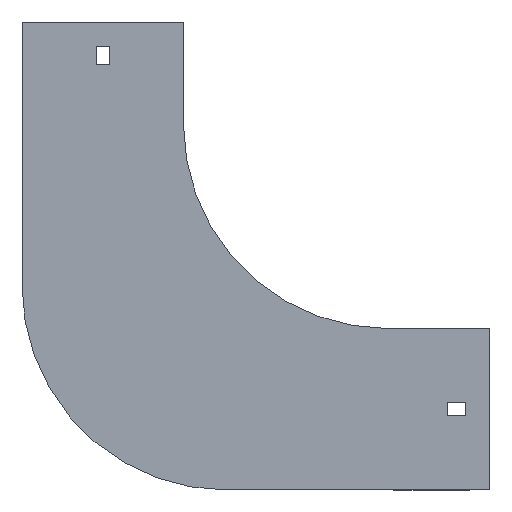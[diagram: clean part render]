
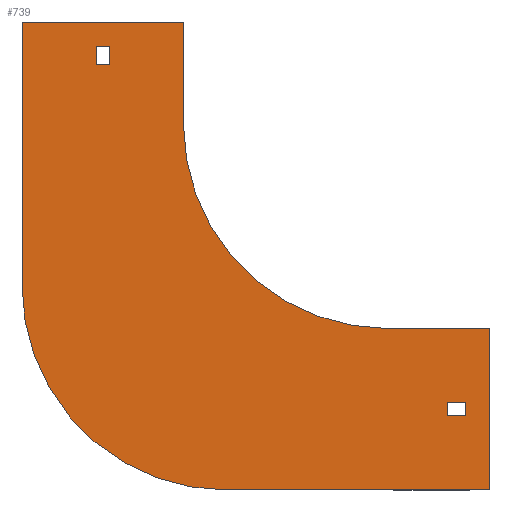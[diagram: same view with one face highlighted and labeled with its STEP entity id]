
A CAD part, front view. The second image highlights one B-rep face of the part: STEP entity #739.
In plain terms, the highlighted planar face has unit normal (0, -1, 0).
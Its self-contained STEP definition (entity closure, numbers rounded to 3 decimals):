
#6 = CARTESIAN_POINT ( 'NONE',  ( -142.75, 0., 29. ) ) ;
#16 = DIRECTION ( 'NONE',  ( 1., 0., 0. ) ) ;
#19 = FACE_BOUND ( 'NONE', #1252, .T. ) ;
#46 = VECTOR ( 'NONE', #1028, 1000. ) ;
#51 = DIRECTION ( 'NONE',  ( 0., 0., -1. ) ) ;
#72 = DIRECTION ( 'NONE',  ( 0., 0., -1. ) ) ;
#89 = VECTOR ( 'NONE', #1152, 1000. ) ;
#97 = VERTEX_POINT ( 'NONE', #871 ) ;
#98 = ORIENTED_EDGE ( 'NONE', *, *, #905, .F. ) ;
#104 = LINE ( 'NONE', #638, #516 ) ;
#107 = LINE ( 'NONE', #633, #1359 ) ;
#114 = VERTEX_POINT ( 'NONE', #967 ) ;
#117 = ORIENTED_EDGE ( 'NONE', *, *, #245, .T. ) ;
#118 = DIRECTION ( 'NONE',  ( 1., 0., 0. ) ) ;
#139 = EDGE_LOOP ( 'NONE', ( #1296, #98, #810, #160 ) ) ;
#156 = VECTOR ( 'NONE', #551, 1000. ) ;
#160 = ORIENTED_EDGE ( 'NONE', *, *, #240, .F. ) ;
#177 = CARTESIAN_POINT ( 'NONE',  ( -142.75, 0., 29. ) ) ;
#179 = AXIS2_PLACEMENT_3D ( 'NONE', #712, #926, #399 ) ;
#180 = VERTEX_POINT ( 'NONE', #1052 ) ;
#182 = EDGE_LOOP ( 'NONE', ( #1253, #1178, #1127, #837, #361, #1090, #976, #302 ) ) ;
#208 = VECTOR ( 'NONE', #814, 1000. ) ;
#214 = DIRECTION ( 'NONE',  ( 0., 0., 1. ) ) ;
#215 = EDGE_CURVE ( 'NONE', #97, #114, #1139, .T. ) ;
#217 = CARTESIAN_POINT ( 'NONE',  ( 38., 0., -142.75 ) ) ;
#226 = CARTESIAN_POINT ( 'NONE',  ( 29., 0., -142.75 ) ) ;
#233 = VECTOR ( 'NONE', #1288, 1000. ) ;
#240 = EDGE_CURVE ( 'NONE', #1267, #1282, #104, .T. ) ;
#245 = EDGE_CURVE ( 'NONE', #1029, #648, #530, .T. ) ;
#252 = EDGE_CURVE ( 'NONE', #1005, #1300, #409, .T. ) ;
#258 = EDGE_CURVE ( 'NONE', #114, #792, #515, .T. ) ;
#269 = VECTOR ( 'NONE', #51, 1000. ) ;
#301 = EDGE_CURVE ( 'NONE', #1176, #1267, #1265, .T. ) ;
#302 = ORIENTED_EDGE ( 'NONE', *, *, #1002, .F. ) ;
#316 = CARTESIAN_POINT ( 'NONE',  ( -179., 0., -79. ) ) ;
#345 = FACE_OUTER_BOUND ( 'NONE', #182, .T. ) ;
#357 = EDGE_CURVE ( 'NONE', #612, #1029, #606, .T. ) ;
#361 = ORIENTED_EDGE ( 'NONE', *, *, #215, .F. ) ;
#380 = LINE ( 'NONE', #785, #269 ) ;
#392 = EDGE_CURVE ( 'NONE', #648, #1069, #1401, .T. ) ;
#399 = DIRECTION ( 'NONE',  ( 0., 0., 1. ) ) ;
#402 = EDGE_CURVE ( 'NONE', #1069, #612, #107, .T. ) ;
#409 = LINE ( 'NONE', #316, #89 ) ;
#425 = AXIS2_PLACEMENT_3D ( 'NONE', #990, #981, #1100 ) ;
#443 = ORIENTED_EDGE ( 'NONE', *, *, #392, .T. ) ;
#446 = PLANE ( 'NONE',  #425 ) ;
#448 = EDGE_CURVE ( 'NONE', #792, #1005, #947, .T. ) ;
#480 = LINE ( 'NONE', #708, #208 ) ;
#503 = VERTEX_POINT ( 'NONE', #677 ) ;
#515 = LINE ( 'NONE', #1165, #987 ) ;
#516 = VECTOR ( 'NONE', #1398, 1000. ) ;
#530 = LINE ( 'NONE', #958, #696 ) ;
#551 = DIRECTION ( 'NONE',  ( 0., 0., 1. ) ) ;
#557 = EDGE_CURVE ( 'NONE', #503, #180, #1387, .T. ) ;
#593 = LINE ( 'NONE', #1394, #233 ) ;
#606 = LINE ( 'NONE', #1023, #1138 ) ;
#608 = EDGE_CURVE ( 'NONE', #1300, #685, #593, .T. ) ;
#612 = VERTEX_POINT ( 'NONE', #906 ) ;
#633 = CARTESIAN_POINT ( 'NONE',  ( -142.75, 0., 38. ) ) ;
#638 = CARTESIAN_POINT ( 'NONE',  ( 29., 0., -136.25 ) ) ;
#648 = VERTEX_POINT ( 'NONE', #177 ) ;
#650 = CARTESIAN_POINT ( 'NONE',  ( 0., 0., 0. ) ) ;
#666 = CARTESIAN_POINT ( 'NONE',  ( 38., 0., -136.25 ) ) ;
#677 = CARTESIAN_POINT ( 'NONE',  ( -100., 0., 0. ) ) ;
#685 = VERTEX_POINT ( 'NONE', #1358 ) ;
#696 = VECTOR ( 'NONE', #738, 1000. ) ;
#700 = EDGE_CURVE ( 'NONE', #1282, #1202, #480, .T. ) ;
#708 = CARTESIAN_POINT ( 'NONE',  ( 29., 0., -142.75 ) ) ;
#712 = CARTESIAN_POINT ( 'NONE',  ( -79., 0., -79. ) ) ;
#738 = DIRECTION ( 'NONE',  ( -1., 0., 0. ) ) ;
#739 = ADVANCED_FACE ( 'NONE', ( #19, #345, #774 ), #446, .T. ) ;
#760 = EDGE_CURVE ( 'NONE', #180, #97, #1104, .T. ) ;
#770 = AXIS2_PLACEMENT_3D ( 'NONE', #650, #1277, #1264 ) ;
#774 = FACE_BOUND ( 'NONE', #139, .T. ) ;
#785 = CARTESIAN_POINT ( 'NONE',  ( -100., 0., 50. ) ) ;
#792 = VERTEX_POINT ( 'NONE', #1327 ) ;
#795 = CARTESIAN_POINT ( 'NONE',  ( -136.25, 0., 29. ) ) ;
#810 = ORIENTED_EDGE ( 'NONE', *, *, #700, .F. ) ;
#814 = DIRECTION ( 'NONE',  ( 0., 0., -1. ) ) ;
#837 = ORIENTED_EDGE ( 'NONE', *, *, #258, .F. ) ;
#848 = DIRECTION ( 'NONE',  ( -1., 0., 0. ) ) ;
#871 = CARTESIAN_POINT ( 'NONE',  ( 50., 0., -100. ) ) ;
#905 = EDGE_CURVE ( 'NONE', #1202, #1176, #1346, .T. ) ;
#906 = CARTESIAN_POINT ( 'NONE',  ( -136.25, 0., 38. ) ) ;
#926 = DIRECTION ( 'NONE',  ( 0., 1., 0. ) ) ;
#947 = CIRCLE ( 'NONE', #179, 100. ) ;
#958 = CARTESIAN_POINT ( 'NONE',  ( -142.75, 0., 29. ) ) ;
#967 = CARTESIAN_POINT ( 'NONE',  ( 50., 0., -179. ) ) ;
#976 = ORIENTED_EDGE ( 'NONE', *, *, #557, .F. ) ;
#981 = DIRECTION ( 'NONE',  ( 0., -1., 0. ) ) ;
#987 = VECTOR ( 'NONE', #848, 1000. ) ;
#990 = CARTESIAN_POINT ( 'NONE',  ( 0., 0., 0. ) ) ;
#1002 = EDGE_CURVE ( 'NONE', #685, #503, #380, .T. ) ;
#1005 = VERTEX_POINT ( 'NONE', #1246 ) ;
#1023 = CARTESIAN_POINT ( 'NONE',  ( -136.25, 0., 29. ) ) ;
#1028 = DIRECTION ( 'NONE',  ( 0., 0., -1. ) ) ;
#1029 = VERTEX_POINT ( 'NONE', #795 ) ;
#1052 = CARTESIAN_POINT ( 'NONE',  ( 0., 0., -100. ) ) ;
#1069 = VERTEX_POINT ( 'NONE', #1141 ) ;
#1090 = ORIENTED_EDGE ( 'NONE', *, *, #760, .F. ) ;
#1100 = DIRECTION ( 'NONE',  ( 0., 0., -1. ) ) ;
#1104 = LINE ( 'NONE', #1298, #1337 ) ;
#1121 = CARTESIAN_POINT ( 'NONE',  ( 29., 0., -142.75 ) ) ;
#1127 = ORIENTED_EDGE ( 'NONE', *, *, #448, .F. ) ;
#1129 = ORIENTED_EDGE ( 'NONE', *, *, #357, .T. ) ;
#1138 = VECTOR ( 'NONE', #72, 1000. ) ;
#1139 = LINE ( 'NONE', #1281, #46 ) ;
#1141 = CARTESIAN_POINT ( 'NONE',  ( -142.75, 0., 38. ) ) ;
#1152 = DIRECTION ( 'NONE',  ( 0., 0., 1. ) ) ;
#1165 = CARTESIAN_POINT ( 'NONE',  ( 50., 0., -179. ) ) ;
#1176 = VERTEX_POINT ( 'NONE', #217 ) ;
#1178 = ORIENTED_EDGE ( 'NONE', *, *, #252, .F. ) ;
#1179 = CARTESIAN_POINT ( 'NONE',  ( -179., 0., 50. ) ) ;
#1202 = VERTEX_POINT ( 'NONE', #226 ) ;
#1203 = CARTESIAN_POINT ( 'NONE',  ( 29., 0., -136.25 ) ) ;
#1214 = ORIENTED_EDGE ( 'NONE', *, *, #402, .T. ) ;
#1231 = VECTOR ( 'NONE', #214, 1000. ) ;
#1246 = CARTESIAN_POINT ( 'NONE',  ( -179., 0., -79. ) ) ;
#1249 = VECTOR ( 'NONE', #1336, 1000. ) ;
#1252 = EDGE_LOOP ( 'NONE', ( #443, #1214, #1129, #117 ) ) ;
#1253 = ORIENTED_EDGE ( 'NONE', *, *, #608, .F. ) ;
#1264 = DIRECTION ( 'NONE',  ( 0., 0., -1. ) ) ;
#1265 = LINE ( 'NONE', #1273, #1231 ) ;
#1267 = VERTEX_POINT ( 'NONE', #666 ) ;
#1273 = CARTESIAN_POINT ( 'NONE',  ( 38., 0., -142.75 ) ) ;
#1277 = DIRECTION ( 'NONE',  ( 0., -1., 0. ) ) ;
#1281 = CARTESIAN_POINT ( 'NONE',  ( 50., 0., -100. ) ) ;
#1282 = VERTEX_POINT ( 'NONE', #1203 ) ;
#1288 = DIRECTION ( 'NONE',  ( 1., 0., 0. ) ) ;
#1296 = ORIENTED_EDGE ( 'NONE', *, *, #301, .F. ) ;
#1298 = CARTESIAN_POINT ( 'NONE',  ( 0., 0., -100. ) ) ;
#1300 = VERTEX_POINT ( 'NONE', #1179 ) ;
#1327 = CARTESIAN_POINT ( 'NONE',  ( -79., 0., -179. ) ) ;
#1336 = DIRECTION ( 'NONE',  ( 1., 0., 0. ) ) ;
#1337 = VECTOR ( 'NONE', #118, 1000. ) ;
#1346 = LINE ( 'NONE', #1121, #1249 ) ;
#1358 = CARTESIAN_POINT ( 'NONE',  ( -100., 0., 50. ) ) ;
#1359 = VECTOR ( 'NONE', #16, 1000. ) ;
#1387 = CIRCLE ( 'NONE', #770, 100. ) ;
#1394 = CARTESIAN_POINT ( 'NONE',  ( -179., 0., 50. ) ) ;
#1398 = DIRECTION ( 'NONE',  ( -1., 0., 0. ) ) ;
#1401 = LINE ( 'NONE', #6, #156 ) ;
